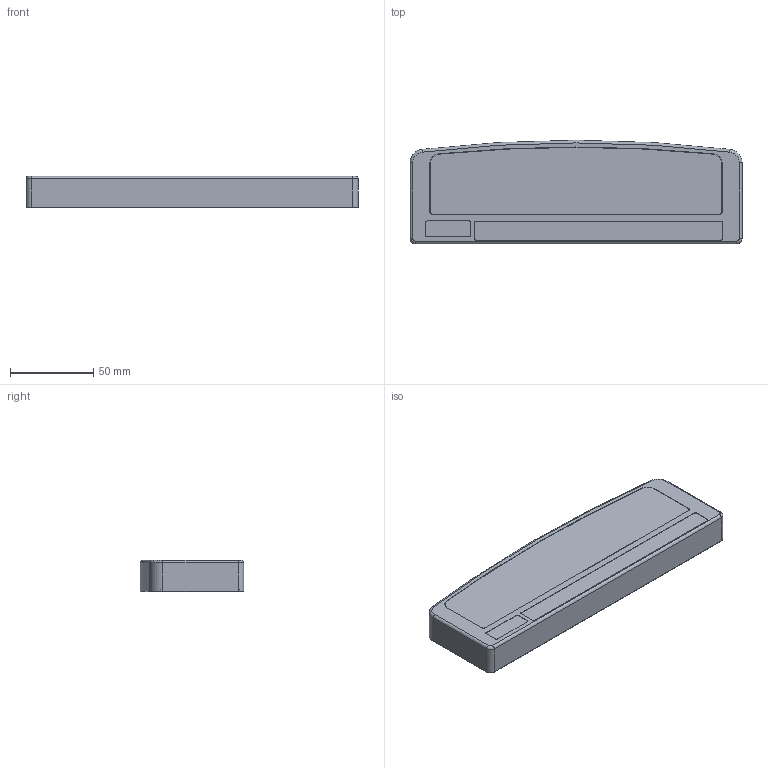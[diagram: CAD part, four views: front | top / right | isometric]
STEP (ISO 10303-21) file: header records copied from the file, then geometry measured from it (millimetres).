
FILE_DESCRIPTION(('Open CASCADE Model'),'2;1');
FILE_NAME('Open CASCADE Shape Model','2026-09-26T16:24:16',('Author'),( 'Open CASCADE'),'Open CASCADE STEP processor 7.9','Open CASCADE 7.9' ,'Unknown');
FILE_SCHEMA(('AUTOMOTIVE_DESIGN { 1 0 10303 214 1 1 1 1 }'));
Length unit declared in the file: millimetre
Products named in the file (4): HSS0130_PHOTO_ESTIMATE_v1; shell_ESTIMATE; bottom_ESTIMATE; panel_blank_ESTIMATE
Assembly tree (3 placements, depth 2):
  HSS0130_PHOTO_ESTIMATE_v1
    shell_ESTIMATE
    bottom_ESTIMATE
    panel_blank_ESTIMATE
Bounding box: 200 x 62.33 x 18.97 mm (x, y, z)
Volume: 47279.3 mm3; surface area: 68176.8 mm2
Topology: 3 solids, 3 shells, 105 faces, 266 edges, 172 vertices
Faces by surface type: cylinder 55, plane 40, torus 8, revolution 2
Full cylindrical faces by diameter (mm): 1.138 x8
Entity records: 6606 total; most frequent: CARTESIAN_POINT 1497, DIRECTION 855, ORIENTED_EDGE 532, PCURVE 532, DEFINITIONAL_REPRESENTATION 532, LINE 316, VECTOR 316, EDGE_CURVE 266
